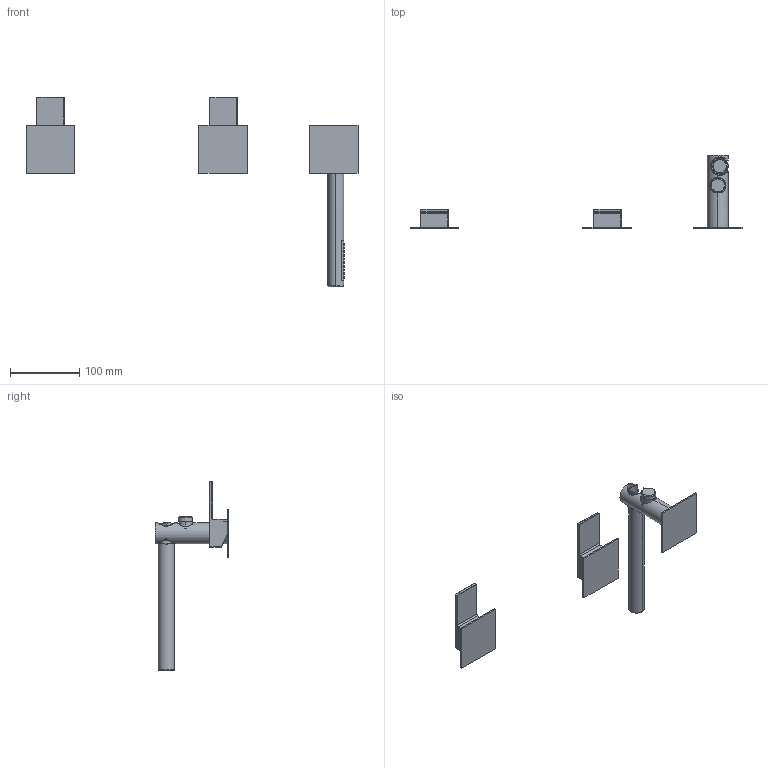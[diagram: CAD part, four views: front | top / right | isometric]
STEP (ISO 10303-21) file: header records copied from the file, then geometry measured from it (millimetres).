
FILE_DESCRIPTION (( 'STEP AP214' ), '1' );
FILE_NAME ('58233710 x architetti.STEP', '2025-01-24T16:15:01', ( '' ), ( '' ), 'SwSTEP 2.0', 'SolidWorks 2020', '' );
FILE_SCHEMA (( 'AUTOMOTIVE_DESIGN' ));
Length unit declared in the file: millimetre
Products named in the file (1): 58233710 x architetti
Bounding box: 480 x 106.7 x 273.65 mm (x, y, z)
Volume: 240626.4 mm3; surface area: 91674 mm2
Topology: 5 solids, 6 shells, 378 faces, 872 edges, 535 vertices
Faces by surface type: cylinder 231, plane 80, bspline 50, cone 12, torus 5
Entity records: 20933 total; most frequent: CARTESIAN_POINT 9156, ORIENTED_EDGE 1716, DIRECTION 1343, EDGE_CURVE 858, VERTEX_POINT 535, AXIS2_PLACEMENT_3D 490, EDGE_LOOP 433, FACE_OUTER_BOUND 378
